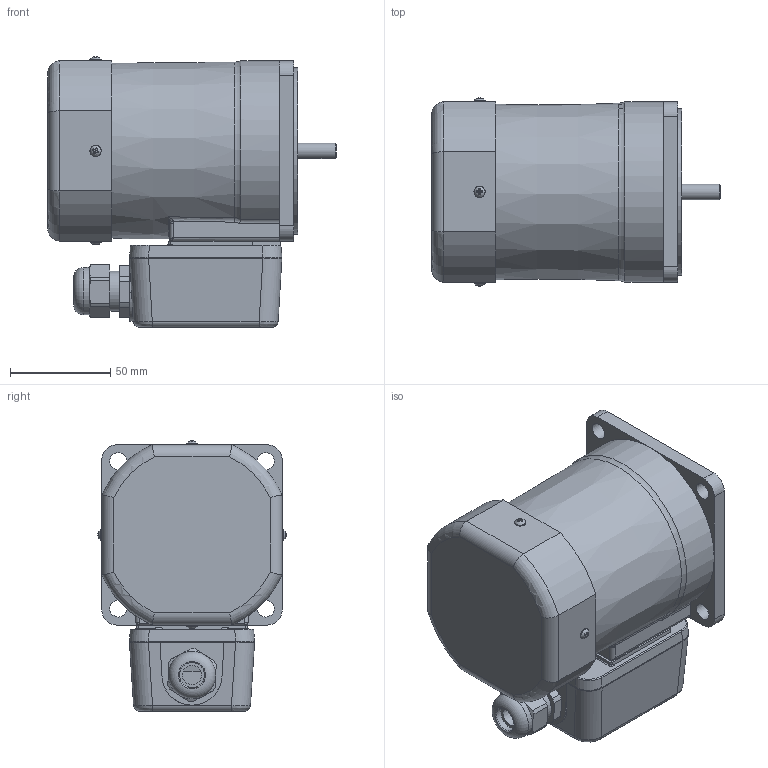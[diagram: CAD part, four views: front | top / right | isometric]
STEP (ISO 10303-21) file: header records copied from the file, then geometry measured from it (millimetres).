
FILE_DESCRIPTION(/* description */ (''),/* implementation_level */ '2;1');
FILE_NAME(/* name */ 'E:\도면작업\2016\0704) 미주향 SG 도면\3D MOTOR\TERMINAL BOX TYPE\INDUCTION TERMINAL BOX\SG9I60G_-T.stp',/* time_stamp */ '2017-01-23T19:06:09+09:00',/* author */ ('jy-jung'),/* organization */ (''),/* preprocessor_version */ 'ST-DEVELOPER v15.6',/* originating_system */ 'Autodesk Inventor 2015',/* authorisation */ '');
FILE_SCHEMA (('AUTOMOTIVE_DESIGN { 1 0 10303 214 3 1 1 }'));
Length unit declared in the file: millimetre
Products named in the file (1): 부품2
Bounding box: 143.9 x 93.89 x 134.95 mm (x, y, z)
Volume: 995276.8 mm3; surface area: 78587.4 mm2
Topology: 1 solids, 13 shells, 466 faces, 1158 edges, 737 vertices
Faces by surface type: plane 250, cylinder 124, bspline 53, torus 30, cone 9
Full cylindrical faces by diameter (mm): 2.55 x2, 3 x4, 3.5 x4, 5.6 x8, 6.3 x4, 7.62 x1, 8.5 x4, 12.5 x1, 15 x1, 20 x2, 21 x1, 23.6 x1, 40 x1, 83 x1
Entity records: 15946 total; most frequent: CARTESIAN_POINT 5030, ORIENTED_EDGE 2156, DIRECTION 2028, EDGE_CURVE 1078, AXIS2_PLACEMENT_3D 727, VERTEX_POINT 724, LINE 574, VECTOR 574
